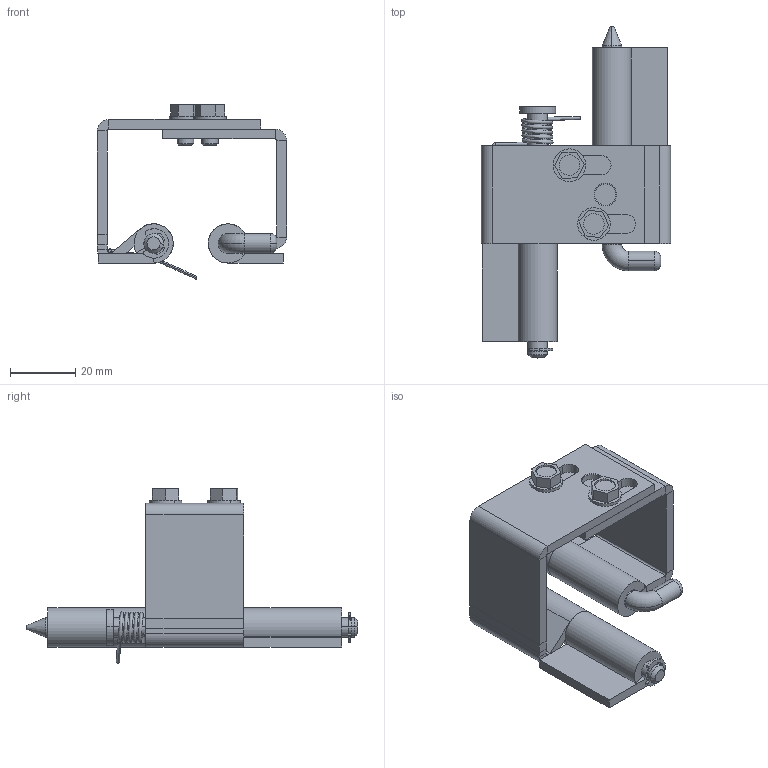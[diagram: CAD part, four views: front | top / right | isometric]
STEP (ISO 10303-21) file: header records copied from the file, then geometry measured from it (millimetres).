
FILE_DESCRIPTION (( 'STEP AP214' ), '1' );
FILE_NAME ('3.ST46-3.002.STEP', '2010-02-12T15:01:57', ( 'Rak' ), ( 'ROZTOCZE' ), 'SwSTEP 2.0', 'SolidWorks 2004231', '' );
FILE_SCHEMA (( 'AUTOMOTIVE_DESIGN' ));
Length unit declared in the file: millimetre
Products named in the file (9): 3B.St46.02.01.00_Domyœlna; 3B.St46.03.00.00_Domyœlna; 3B.St46.06.00.00_Domyœlna; Zabezpieczenie_Domyœlna; 5_Domyœlna; Sruba M5x8_Domyœlna; 3B.St46.00.00.04; 3B.St46.01.01.00_Domyœlna; 3.ST46-3.002
Assembly tree (10 placements, depth 2):
  3.ST46-3.002
    3B.St46.03.00.00_Domyœlna  x2
    3B.St46.00.00.04
    Sruba M5x8_Domyœlna  x2
    5_Domyœlna
    Zabezpieczenie_Domyœlna
    3B.St46.01.01.00_Domyœlna
    3B.St46.06.00.00_Domyœlna
    3B.St46.02.01.00_Domyœlna
Bounding box: 58 x 101.71 x 53.48 mm (x, y, z)
Volume: 32835.5 mm3; surface area: 26012 mm2
Topology: 10 solids, 10 shells, 227 faces, 505 edges, 309 vertices
Faces by surface type: plane 123, cylinder 60, bspline 28, torus 8, cone 8
Entity records: 7708 total; most frequent: CARTESIAN_POINT 3043, DIRECTION 914, ORIENTED_EDGE 890, EDGE_CURVE 445, AXIS2_PLACEMENT_3D 326, VERTEX_POINT 271, VECTOR 262, LINE 262
